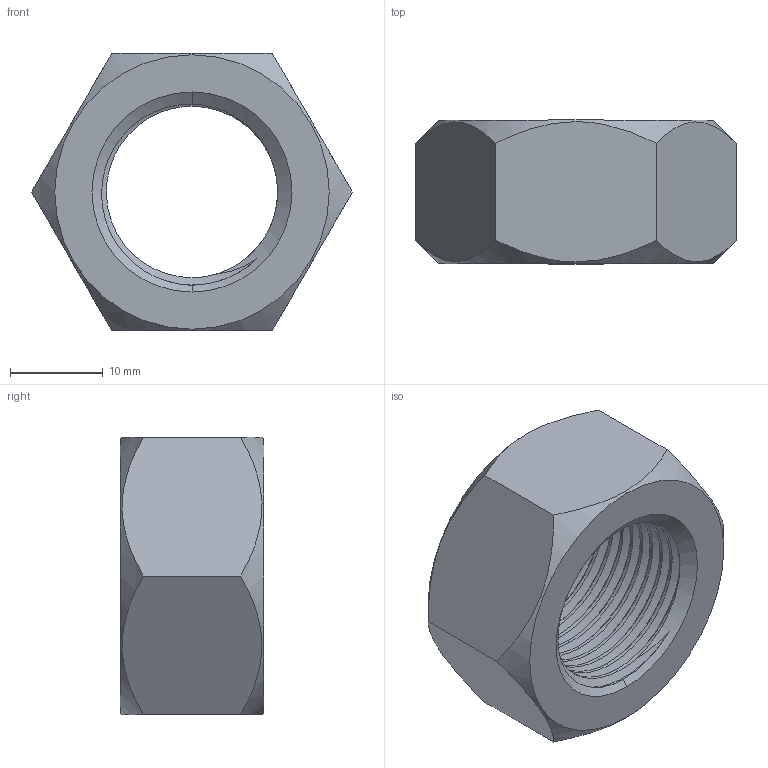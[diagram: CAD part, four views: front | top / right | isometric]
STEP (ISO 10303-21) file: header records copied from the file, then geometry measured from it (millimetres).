
FILE_DESCRIPTION (( 'STEP AP203' ), '1' );
FILE_NAME ('TANRM-304-M20x1.5.STEP', '2026-08-21T15:10:20', ( '' ), ( '' ), 'SwSTEP 2.0', 'SolidWorks 2020', '' );
FILE_SCHEMA (( 'CONFIG_CONTROL_DESIGN' ));
Length unit declared in the file: millimetre
Products named in the file (1): TANRM-304-M20x1.5
Bounding box: 34.64 x 15.5 x 30 mm (x, y, z)
Volume: 7388.1 mm3; surface area: 3854.2 mm2
Topology: 1 solids, 1 shells, 38 faces, 108 edges, 72 vertices
Faces by surface type: cylinder 19, cone 8, plane 8, bspline 3
Entity records: 3192 total; most frequent: CARTESIAN_POINT 2292, ORIENTED_EDGE 216, DIRECTION 124, EDGE_CURVE 108, VERTEX_POINT 72, AXIS2_PLACEMENT_3D 46, EDGE_LOOP 40, ADVANCED_FACE 38
